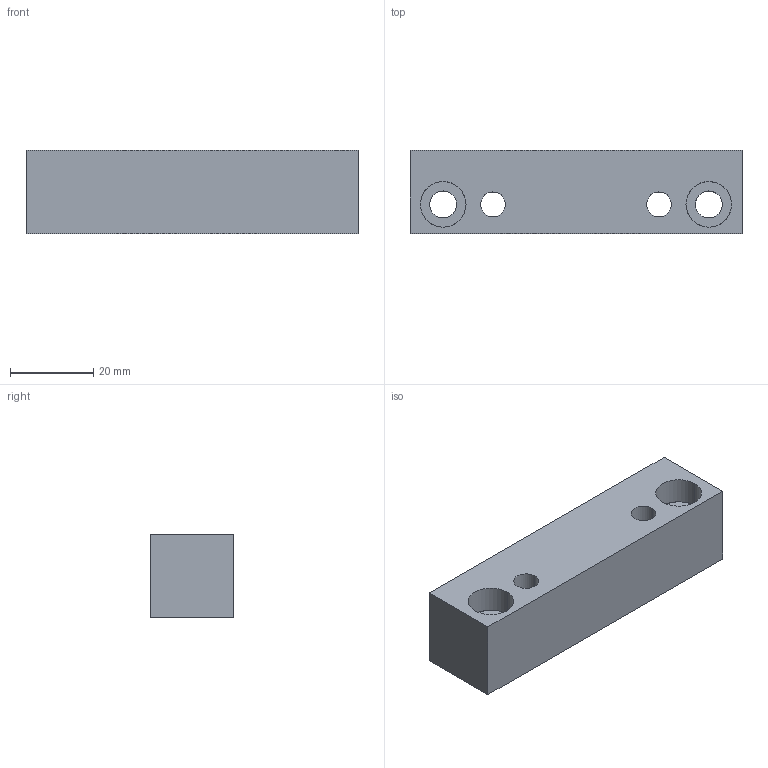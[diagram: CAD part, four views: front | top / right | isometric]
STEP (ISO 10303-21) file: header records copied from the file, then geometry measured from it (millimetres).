
FILE_DESCRIPTION(('CATIA V5 STEP Exchange'),'2;1');
FILE_NAME('C:\Users\Utente\Desktop\3D files G405\G40520080.stp','2020-04-22T09:20:56+00:00',('none'),('none'),'CATIA Version 5 Release 20 GA (IN-10)','CATIA V5 STEP AP203','none');
FILE_SCHEMA(('CONFIG_CONTROL_DESIGN'));
Length unit declared in the file: millimetre
Products named in the file (1): G40520080
Bounding box: 80 x 20 x 20 mm (x, y, z)
Surface area: 11322.2 mm2 (no closed solid volume)
Topology: 0 solids, 310 shells, 310 faces, 1332 edges, 1192 vertices
Faces by surface type: revolution 168, cylinder 104, plane 38
Entity records: 14700 total; most frequent: CARTESIAN_POINT 4817, DIRECTION 1558, ORIENTED_EDGE 1192, EDGE_CURVE 1192, VERTEX_POINT 1192, AXIS2_PLACEMENT_3D 681, VECTOR 568, LINE 568
